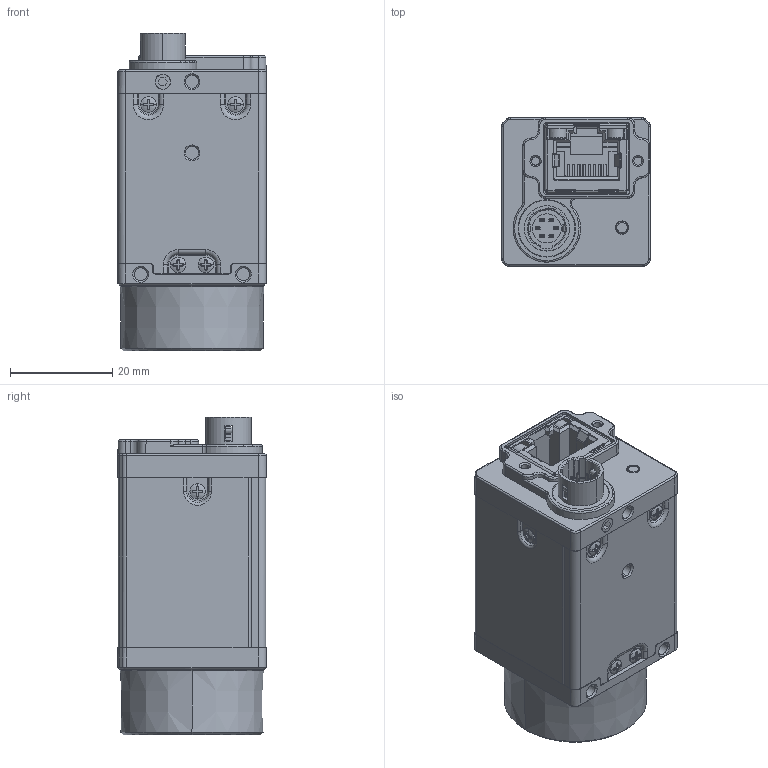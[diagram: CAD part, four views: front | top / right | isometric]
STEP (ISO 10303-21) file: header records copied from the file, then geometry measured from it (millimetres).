
FILE_DESCRIPTION((''),'2;1');
FILE_NAME('MV-CU013-80GMGC','2023-10-08T19:21:20',('zhangfeixiang8'),(''),'CREO PARAMETRIC BY PTC INC, 2020044','CREO PARAMETRIC BY PTC INC, 2020044','');
FILE_SCHEMA(('CONFIG_CONTROL_DESIGN'));
Products named in the file (1): MV-CU013-80GMGC
Bounding box: 29 x 29 x 62.06 mm (x, y, z)
Volume: 35165.3 mm3; surface area: 22116.6 mm2
Topology: 2 solids, 16 shells, 2491 faces, 6829 edges, 4361 vertices
Faces by surface type: plane 1212, cylinder 542, bspline 273, cone 240, torus 181, sphere 23, extrusion 20
Entity records: 96769 total; most frequent: CARTESIAN_POINT 35378, ORIENTED_EDGE 13618, DIRECTION 11859, EDGE_CURVE 6809, VERTEX_POINT 4361, AXIS2_PLACEMENT_3D 4044, VECTOR 3771, LINE 3751
